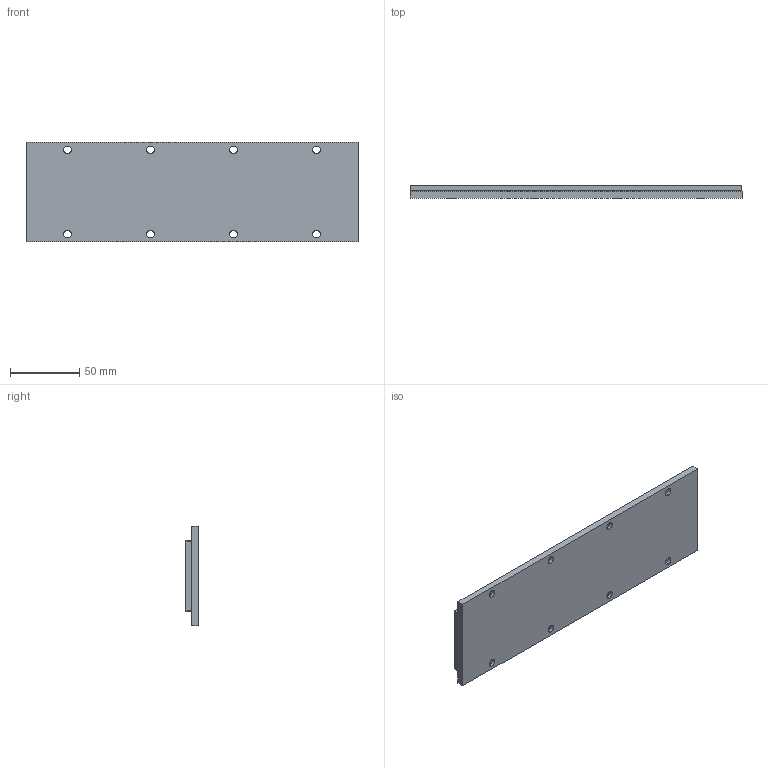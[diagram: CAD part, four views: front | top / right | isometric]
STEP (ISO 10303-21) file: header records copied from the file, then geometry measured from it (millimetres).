
FILE_DESCRIPTION (( 'STEP AP203' ), '1' );
FILE_NAME ('CM240.STEP', '2025-12-28T07:56:29', ( '' ), ( '' ), 'SwSTEP 2.0', 'SolidWorks 2024', '' );
FILE_SCHEMA (( 'CONFIG_CONTROL_DESIGN' ));
Length unit declared in the file: millimetre
Products named in the file (1): CM240
Bounding box: 240 x 9.2 x 72 mm (x, y, z)
Volume: 134659.8 mm3; surface area: 44515.2 mm2
Topology: 1 solids, 1 shells, 93 faces, 224 edges, 144 vertices
Faces by surface type: plane 45, cylinder 36, bspline 12
Entity records: 3035 total; most frequent: CARTESIAN_POINT 770, ORIENTED_EDGE 448, DIRECTION 436, EDGE_CURVE 224, AXIS2_PLACEMENT_3D 154, VERTEX_POINT 144, LINE 128, VECTOR 128
